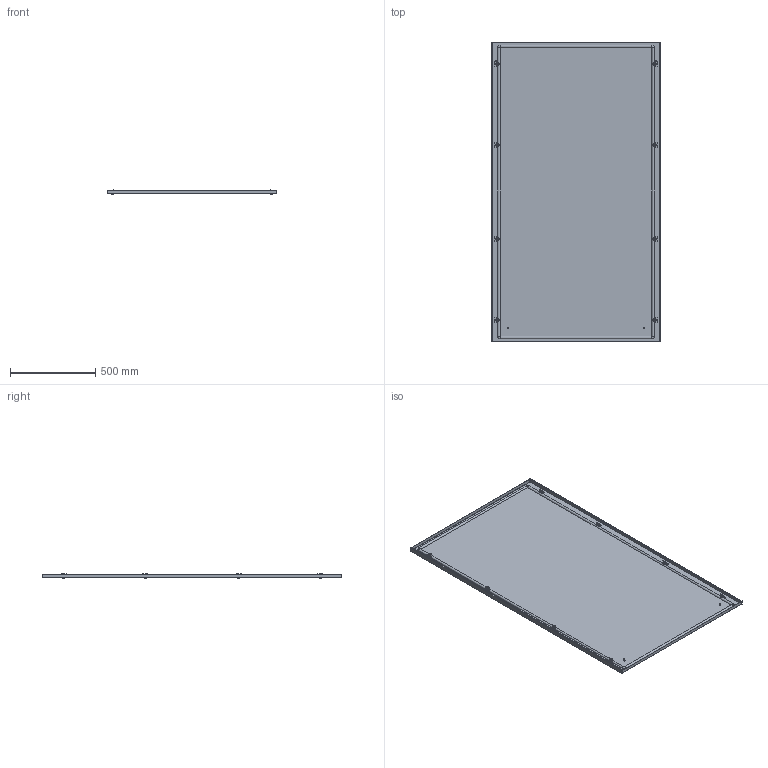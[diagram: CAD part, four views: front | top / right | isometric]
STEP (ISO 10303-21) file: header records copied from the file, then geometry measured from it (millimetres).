
FILE_DESCRIPTION(('Open CASCADE Model'),'2;1');
FILE_NAME('Open CASCADE Shape Model','2025-02-07T16:30:52',('Author'),( 'Open CASCADE'),'Open CASCADE STEP processor 7.8','Open CASCADE 7.8' ,'Unknown');
FILE_SCHEMA(('AUTOMOTIVE_DESIGN { 1 0 10303 214 1 1 1 1 }'));
Length unit declared in the file: millimetre
Products named in the file (10): Compound1; Compound2; Compound3; Solid1; Solid2; Solid3; Solid4; Solid5; Solid6; Solid7
Assembly tree (40 placements, depth 4):
  Compound1
    Compound2
      Compound3
        Solid1
        Solid2  x4
      Solid3
    Solid4  x8
    Solid5  x8
    Solid6  x8
    Solid7  x8
Bounding box: 994 x 1755 x 23.8 mm (x, y, z)
Volume: 3304741.1 mm3; surface area: 4006286.9 mm2
Topology: 38 solids, 38 shells, 1655 faces, 4040 edges, 2460 vertices
Faces by surface type: plane 1043, cone 308, cylinder 268, torus 24, bspline 8, revolution 4
Full cylindrical faces by diameter (mm): 5 x16, 6 x132, 7.5 x4, 8 x16, 10 x8, 11.57 x8
Entity records: 7845 total; most frequent: CARTESIAN_POINT 1535, DIRECTION 1261, ORIENTED_EDGE 1244, EDGE_CURVE 622, AXIS2_PLACEMENT_3D 424, LINE 409, VECTOR 409, VERTEX_POINT 387
